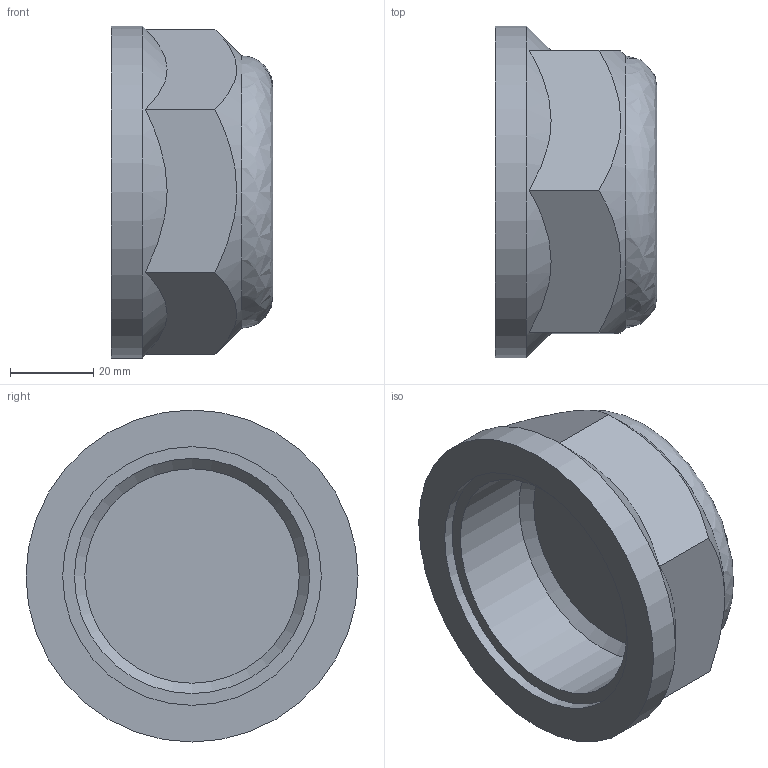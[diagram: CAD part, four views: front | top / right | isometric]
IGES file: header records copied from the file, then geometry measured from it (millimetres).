
Global section: file name: 050707020_0507070200A.ipt; native system: Autodesk Inventor 2015; preprocessor: unknown; author: KIM; date: 20170618.093309; units: millimetre
Bounding box: 39 x 80 x 80 mm (x, y, z)
Volume: 94220.5 mm3; surface area: 21660.2 mm2
Topology: 1 solids, 1 shells, 17 faces, 55 edges, 42 vertices
Faces by surface type: plane 10, revolution 4, cone 2, cylinder 1
Full cylindrical faces by diameter (mm): 80 x1
